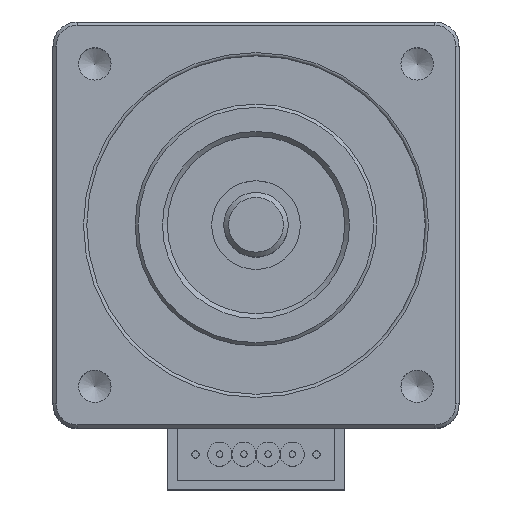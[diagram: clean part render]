
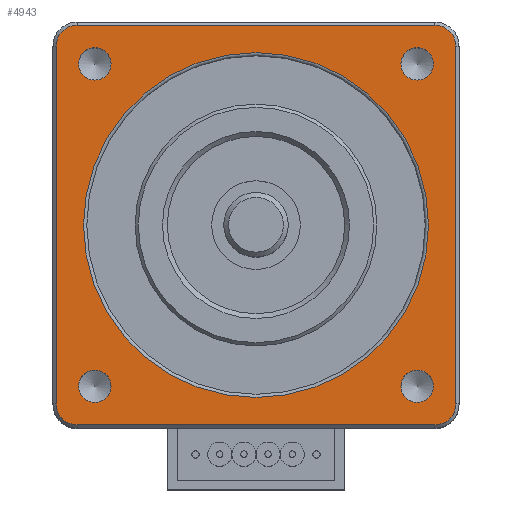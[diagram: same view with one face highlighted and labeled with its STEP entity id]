
A CAD part, top view. The second image highlights one B-rep face of the part: STEP entity #4943.
In plain terms, the highlighted planar face has unit normal (0, 0, 1).
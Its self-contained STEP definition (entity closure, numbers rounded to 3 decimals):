
#73=FACE_BOUND('',#822,.T.);
#74=FACE_BOUND('',#823,.T.);
#75=FACE_BOUND('',#824,.T.);
#76=FACE_BOUND('',#825,.T.);
#77=FACE_BOUND('',#826,.T.);
#232=PLANE('',#5496);
#517=FACE_OUTER_BOUND('',#821,.T.);
#821=EDGE_LOOP('',(#4490,#4491,#4492,#4493,#4494,#4495,#4496,#4497));
#822=EDGE_LOOP('',(#4498,#4499));
#823=EDGE_LOOP('',(#4500,#4501));
#824=EDGE_LOOP('',(#4502,#4503));
#825=EDGE_LOOP('',(#4504,#4505));
#826=EDGE_LOOP('',(#4506));
#905=CIRCLE('',#5093,1.007);
#906=CIRCLE('',#5094,1.007);
#912=CIRCLE('',#5126,1.007);
#913=CIRCLE('',#5127,1.007);
#916=CIRCLE('',#5138,1.007);
#917=CIRCLE('',#5139,1.007);
#922=CIRCLE('',#5157,1.007);
#923=CIRCLE('',#5158,1.007);
#1060=CIRCLE('',#5445,1.3);
#1061=CIRCLE('',#5448,1.3);
#1062=CIRCLE('',#5451,1.3);
#1063=CIRCLE('',#5454,1.3);
#1081=CIRCLE('',#5497,10.7);
#1495=LINE('',#8344,#1956);
#1498=LINE('',#8352,#1959);
#1501=LINE('',#8360,#1962);
#1504=LINE('',#8367,#1965);
#1956=VECTOR('',#6863,10.);
#1959=VECTOR('',#6872,10.);
#1962=VECTOR('',#6881,10.);
#1965=VECTOR('',#6890,10.);
#2119=VERTEX_POINT('',#7380);
#2120=VERTEX_POINT('',#7381);
#2162=VERTEX_POINT('',#7516);
#2163=VERTEX_POINT('',#7517);
#2175=VERTEX_POINT('',#7555);
#2176=VERTEX_POINT('',#7556);
#2192=VERTEX_POINT('',#7611);
#2193=VERTEX_POINT('',#7612);
#2415=VERTEX_POINT('',#8337);
#2416=VERTEX_POINT('',#8339);
#2417=VERTEX_POINT('',#8343);
#2418=VERTEX_POINT('',#8347);
#2419=VERTEX_POINT('',#8351);
#2420=VERTEX_POINT('',#8355);
#2421=VERTEX_POINT('',#8359);
#2422=VERTEX_POINT('',#8363);
#2436=VERTEX_POINT('',#8440);
#2611=EDGE_CURVE('',#2119,#2120,#905,.T.);
#2612=EDGE_CURVE('',#2120,#2119,#906,.T.);
#2678=EDGE_CURVE('',#2162,#2163,#912,.T.);
#2679=EDGE_CURVE('',#2163,#2162,#913,.T.);
#2696=EDGE_CURVE('',#2175,#2176,#916,.T.);
#2697=EDGE_CURVE('',#2176,#2175,#917,.T.);
#2722=EDGE_CURVE('',#2192,#2193,#922,.T.);
#2723=EDGE_CURVE('',#2193,#2192,#923,.T.);
#3084=EDGE_CURVE('',#2415,#2416,#1060,.T.);
#3086=EDGE_CURVE('',#2416,#2417,#1495,.T.);
#3088=EDGE_CURVE('',#2417,#2418,#1061,.T.);
#3090=EDGE_CURVE('',#2418,#2419,#1498,.T.);
#3092=EDGE_CURVE('',#2419,#2420,#1062,.T.);
#3094=EDGE_CURVE('',#2420,#2421,#1501,.T.);
#3096=EDGE_CURVE('',#2421,#2422,#1063,.T.);
#3098=EDGE_CURVE('',#2422,#2415,#1504,.T.);
#3134=EDGE_CURVE('',#2436,#2436,#1081,.T.);
#4490=ORIENTED_EDGE('',*,*,#3098,.F.);
#4491=ORIENTED_EDGE('',*,*,#3096,.F.);
#4492=ORIENTED_EDGE('',*,*,#3094,.F.);
#4493=ORIENTED_EDGE('',*,*,#3092,.F.);
#4494=ORIENTED_EDGE('',*,*,#3090,.F.);
#4495=ORIENTED_EDGE('',*,*,#3088,.F.);
#4496=ORIENTED_EDGE('',*,*,#3086,.F.);
#4497=ORIENTED_EDGE('',*,*,#3084,.F.);
#4498=ORIENTED_EDGE('',*,*,#2722,.T.);
#4499=ORIENTED_EDGE('',*,*,#2723,.T.);
#4500=ORIENTED_EDGE('',*,*,#2696,.T.);
#4501=ORIENTED_EDGE('',*,*,#2697,.T.);
#4502=ORIENTED_EDGE('',*,*,#2678,.T.);
#4503=ORIENTED_EDGE('',*,*,#2679,.T.);
#4504=ORIENTED_EDGE('',*,*,#2611,.T.);
#4505=ORIENTED_EDGE('',*,*,#2612,.T.);
#4506=ORIENTED_EDGE('',*,*,#3134,.F.);
#4943=ADVANCED_FACE('',(#517,#73,#74,#75,#76,#77),#232,.T.);
#5093=AXIS2_PLACEMENT_3D('',#7382,#5844,#5845);
#5094=AXIS2_PLACEMENT_3D('',#7383,#5846,#5847);
#5126=AXIS2_PLACEMENT_3D('',#7518,#5970,#5971);
#5127=AXIS2_PLACEMENT_3D('',#7519,#5972,#5973);
#5138=AXIS2_PLACEMENT_3D('',#7557,#6008,#6009);
#5139=AXIS2_PLACEMENT_3D('',#7558,#6010,#6011);
#5157=AXIS2_PLACEMENT_3D('',#7613,#6066,#6067);
#5158=AXIS2_PLACEMENT_3D('',#7614,#6068,#6069);
#5445=AXIS2_PLACEMENT_3D('',#8340,#6858,#6859);
#5448=AXIS2_PLACEMENT_3D('',#8348,#6867,#6868);
#5451=AXIS2_PLACEMENT_3D('',#8356,#6876,#6877);
#5454=AXIS2_PLACEMENT_3D('',#8364,#6885,#6886);
#5496=AXIS2_PLACEMENT_3D('',#8439,#6989,#6990);
#5497=AXIS2_PLACEMENT_3D('',#8441,#6991,#6992);
#5844=DIRECTION('center_axis',(0.,0.,-1.));
#5845=DIRECTION('ref_axis',(-1.,0.,0.));
#5846=DIRECTION('center_axis',(0.,0.,-1.));
#5847=DIRECTION('ref_axis',(-1.,0.,0.));
#5970=DIRECTION('center_axis',(0.,0.,-1.));
#5971=DIRECTION('ref_axis',(0.,-1.,0.));
#5972=DIRECTION('center_axis',(0.,0.,-1.));
#5973=DIRECTION('ref_axis',(0.,-1.,0.));
#6008=DIRECTION('center_axis',(0.,0.,-1.));
#6009=DIRECTION('ref_axis',(1.,0.,0.));
#6010=DIRECTION('center_axis',(0.,0.,-1.));
#6011=DIRECTION('ref_axis',(1.,0.,0.));
#6066=DIRECTION('center_axis',(0.,0.,-1.));
#6067=DIRECTION('ref_axis',(0.,1.,0.));
#6068=DIRECTION('center_axis',(0.,0.,-1.));
#6069=DIRECTION('ref_axis',(0.,1.,0.));
#6858=DIRECTION('center_axis',(0.,0.,-1.));
#6859=DIRECTION('ref_axis',(1.,0.,0.));
#6863=DIRECTION('',(0.,-1.,0.));
#6867=DIRECTION('center_axis',(0.,0.,-1.));
#6868=DIRECTION('ref_axis',(0.,-1.,0.));
#6872=DIRECTION('',(-1.,0.,0.));
#6876=DIRECTION('center_axis',(0.,0.,-1.));
#6877=DIRECTION('ref_axis',(-1.,0.,0.));
#6881=DIRECTION('',(0.,1.,0.));
#6885=DIRECTION('center_axis',(0.,0.,-1.));
#6886=DIRECTION('ref_axis',(0.,1.,0.));
#6890=DIRECTION('',(1.,0.,0.));
#6989=DIRECTION('center_axis',(0.,0.,1.));
#6990=DIRECTION('ref_axis',(1.,0.,0.));
#6991=DIRECTION('center_axis',(0.,0.,1.));
#6992=DIRECTION('ref_axis',(-1.,0.,0.));
#7380=CARTESIAN_POINT('',(8.994,-10.,0.));
#7381=CARTESIAN_POINT('',(11.007,-10.,0.));
#7382=CARTESIAN_POINT('Origin',(10.,-10.,0.));
#7383=CARTESIAN_POINT('Origin',(10.,-10.,0.));
#7516=CARTESIAN_POINT('',(10.,8.994,0.));
#7517=CARTESIAN_POINT('',(10.,11.007,0.));
#7518=CARTESIAN_POINT('Origin',(10.,10.,0.));
#7519=CARTESIAN_POINT('Origin',(10.,10.,0.));
#7555=CARTESIAN_POINT('',(-8.994,10.,0.));
#7556=CARTESIAN_POINT('',(-11.007,10.,0.));
#7557=CARTESIAN_POINT('Origin',(-10.,10.,0.));
#7558=CARTESIAN_POINT('Origin',(-10.,10.,0.));
#7611=CARTESIAN_POINT('',(-10.,-8.994,0.));
#7612=CARTESIAN_POINT('',(-10.,-11.007,0.));
#7613=CARTESIAN_POINT('Origin',(-10.,-10.,0.));
#7614=CARTESIAN_POINT('Origin',(-10.,-10.,0.));
#8337=CARTESIAN_POINT('',(11.1,12.4,0.));
#8339=CARTESIAN_POINT('',(12.4,11.1,0.));
#8340=CARTESIAN_POINT('Origin',(11.1,11.1,0.));
#8343=CARTESIAN_POINT('',(12.4,-11.1,0.));
#8344=CARTESIAN_POINT('',(12.4,5.55,0.));
#8347=CARTESIAN_POINT('',(11.1,-12.4,0.));
#8348=CARTESIAN_POINT('Origin',(11.1,-11.1,0.));
#8351=CARTESIAN_POINT('',(-11.1,-12.4,0.));
#8352=CARTESIAN_POINT('',(5.55,-12.4,0.));
#8355=CARTESIAN_POINT('',(-12.4,-11.1,0.));
#8356=CARTESIAN_POINT('Origin',(-11.1,-11.1,0.));
#8359=CARTESIAN_POINT('',(-12.4,11.1,0.));
#8360=CARTESIAN_POINT('',(-12.4,-5.55,0.));
#8363=CARTESIAN_POINT('',(-11.1,12.4,0.));
#8364=CARTESIAN_POINT('Origin',(-11.1,11.1,0.));
#8367=CARTESIAN_POINT('',(-5.55,12.4,0.));
#8439=CARTESIAN_POINT('Origin',(0.,0.,0.));
#8440=CARTESIAN_POINT('',(10.7,0.,0.));
#8441=CARTESIAN_POINT('Origin',(0.,0.,0.));
